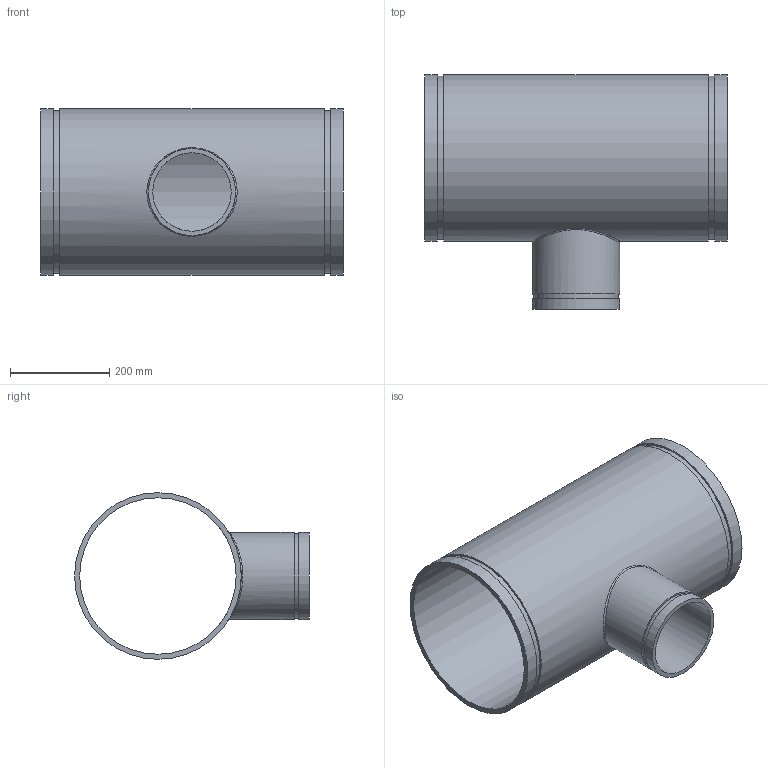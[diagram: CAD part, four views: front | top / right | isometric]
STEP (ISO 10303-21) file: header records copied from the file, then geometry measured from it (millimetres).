
FILE_DESCRIPTION(/* description */ ('VIC REDUCING TEE No 25-C','CAx-IF Rec.Pracs.---Representation and Presentation of Product Manufacturing Information (PMI)---4.0---2014-10-13'),/* implementation_level */ '2;1');
FILE_NAME(/* name */ 'C:\Users\Vjadhav\AppData\Roaming\Autodesk\ApplicationPlugins\Back Up\Victaulic_AWWA_Tee Reducing_No 25-C (DRG)\Victaulic_AWWA_Tee Reducing_No 25-C (DRG)_12.0x06.0 (300x150).stp',/* time_stamp */ '2020-08-18T18:17:58+06:00',/* author */ ('CORINNE GRAY'),/* organization */ ('Victaulic'),/* preprocessor_version */ 'ST-DEVELOPER v17.2',/* originating_system */ 'Autodesk Inventor 2019',/* authorisation */ '');
FILE_SCHEMA (('AP242_MANAGED_MODEL_BASED_3D_ENGINEERING_MIM_LF { 1 0 10303 442 1 1 4 }'));
Length unit declared in the file: inch
Products named in the file (1): 25C-12.0x06.0
Bounding box: 609.6 x 472.44 x 335.28 mm (x, y, z)
Volume: 6676023.4 mm3; surface area: 1403416.9 mm2
Topology: 1 solids, 1 shells, 20 faces, 44 edges, 33 vertices
Faces by surface type: cylinder 10, plane 9, bspline 1
Full cylindrical faces by diameter (mm): 157.988 x1, 169.062 x1, 175.26 x2, 314.96 x1, 327.812 x2, 335.28 x3
Entity records: 982 total; most frequent: CARTESIAN_POINT 358, DIRECTION 135, ORIENTED_EDGE 90, AXIS2_PLACEMENT_3D 62, EDGE_CURVE 45, VERTEX_POINT 34, EDGE_LOOP 31, CIRCLE 29
